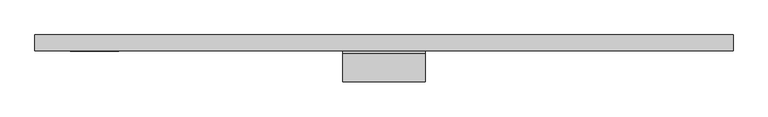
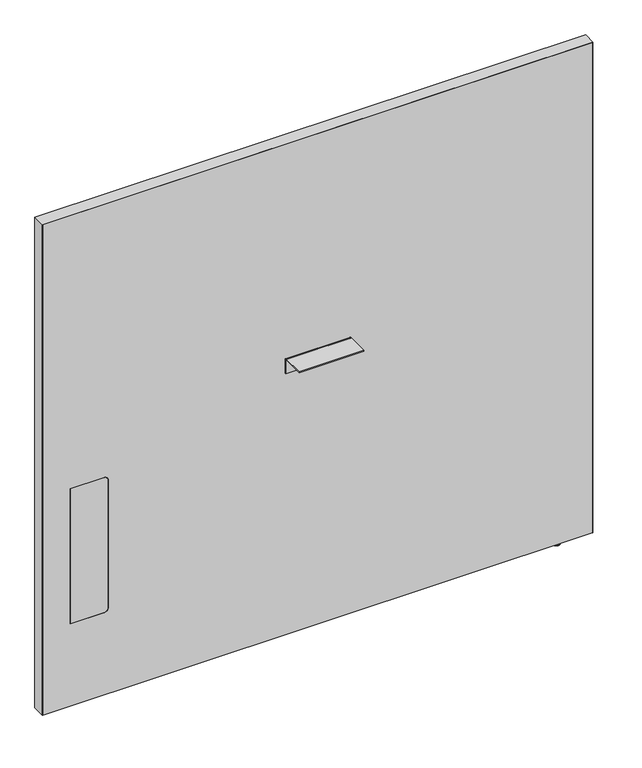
"""IFC4 building model written with IfcOpenShell, lengths in millimetres: furniture geometry, Steelcase - Answer Solution - Boundary Screen - Straight - Single Sided : 48H x 51W."""

from ifc_helpers import new_model, si_unit, point, frame, frame_2d, origin, place, context, project, spatial, polyline, circle_curve, ellipse_curve, trimmed, segment, composite_curve, outline, extrude, source, transform, mapped, element, save
from ifc_brep_helpers import plane_surface, cylinder_surface, revolved_surface, advanced_brep


def furniture_9339183b(model_context):
    return source(origin(), model_context, "Body", "SolidModel", [
        extrude(outline(composite_curve([segment(polyline([(-86.8398151, 696.4680019), (-86.8398151, 698.5), (-34.9450855, 698.5)]), True, "CONTINUOUS"), segment(trimmed(circle_curve(frame_2d((-34.9450855, 693.2447477)), 5.2552523), [point((-34.9450855, 698.5))], [point((-29.6898332, 693.2447477))], False, "CARTESIAN"), True, "CONTINUOUS"), segment(polyline([(-29.6898332, 693.2447477), (-29.6898332, 660.4), (-31.7218162, 660.4), (-31.7218162, 693.0058743)]), True, "CONTINUOUS"), segment(trimmed(circle_curve(frame_2d((-35.1839438, 693.0058743)), 3.4621276), [point((-31.7218162, 693.0058743))], [point((-35.1839438, 696.4680019))], True, "CARTESIAN"), True, "CONTINUOUS"), segment(polyline([(-35.1839438, 696.4680019), (-86.8398151, 696.4680019)]), True, "CONTINUOUS")], self_intersect=False)), frame((-74.9808593, 0.0, 0.0), z_axis=(1.0, 0.0, 0.0), x_axis=(0.0, 1.0, 0.0)), (0.0, 0.0, 1.0), 152.4000969),
        advanced_brep(
        [(571.7286488, -23.7588726, 9.9059849), (571.7286488, -5.9309607, 9.9059849), (571.7286488, -14.8449166, 9.9059849), (571.7286488, -23.7588726, 2.9673238), (571.7286488, -5.9309607, 2.9673238), (571.7286488, -22.7915354, 2.9673238), (571.7286488, -6.8982978, 2.9673238), (571.7286488, -22.7915354, 1.6569081), (571.7286488, -6.8982978, 1.6569081), (571.7286488, -21.1346274, 0.0), (571.7286488, -8.5552059, 0.0), (571.7286488, -14.8449166, 0.0)],
        [
            (0, 1, circle_curve(frame((571.7286488, -14.8449166, 9.9059849), z_axis=(0.0, 0.0, 1.0), x_axis=(0.0, 1.0, 0.0)), 8.913956)),
            (1, 2),
            (2, 0),
            (1, 0, circle_curve(frame((571.7286488, -14.8449166, 9.9059849), z_axis=(0.0, 0.0, 1.0), x_axis=(0.0, 1.0, 0.0)), 8.913956)),
            (3, 4, circle_curve(frame((571.7286488, -14.8449166, 2.9673238), z_axis=(0.0, 0.0, 1.0), x_axis=(0.0, 1.0, 0.0)), 8.913956)),
            (4, 1),
            (0, 3),
            (4, 3, circle_curve(frame((571.7286488, -14.8449166, 2.9673238), z_axis=(0.0, 0.0, 1.0), x_axis=(0.0, 1.0, 0.0)), 8.913956)),
            (5, 6, circle_curve(frame((571.7286488, -14.8449166, 2.9673238), z_axis=(0.0, 0.0, 1.0), x_axis=(0.0, 1.0, 0.0)), 7.9466188)),
            (6, 4),
            (3, 5),
            (6, 5, circle_curve(frame((571.7286488, -14.8449166, 2.9673238), z_axis=(0.0, 0.0, 1.0), x_axis=(0.0, 1.0, 0.0)), 7.9466188)),
            (7, 8, circle_curve(frame((571.7286488, -14.8449166, 1.6569081), z_axis=(0.0, 0.0, 1.0), x_axis=(0.0, 1.0, 0.0)), 7.9466188)),
            (8, 6),
            (5, 7),
            (8, 7, circle_curve(frame((571.7286488, -14.8449166, 1.6569081), z_axis=(0.0, 0.0, 1.0), x_axis=(0.0, 1.0, 0.0)), 7.9466188)),
            (9, 10, circle_curve(frame((571.7286488, -14.8449166, 0.0), z_axis=(0.0, 0.0, 1.0), x_axis=(0.0, 1.0, 0.0)), 6.2897107)),
            (10, 8, circle_curve(frame((571.7286488, -8.5552059, 1.6569081), z_axis=(1.0, 0.0, 0.0), x_axis=(0.0, 1.0, 0.0)), 1.6569081)),
            (7, 9, circle_curve(frame((571.7286488, -21.1346274, 1.6569081), z_axis=(1.0, 0.0, 0.0), x_axis=(0.0, -1.0, 0.0)), 1.6569081)),
            (10, 9, circle_curve(frame((571.7286488, -14.8449166, 0.0), z_axis=(0.0, 0.0, 1.0), x_axis=(0.0, 1.0, 0.0)), 6.2897107)),
            (11, 10),
            (9, 11),
        ],
        [
            plane_surface(frame((571.7286488, -14.8449166, 9.9059849), z_axis=(0.0, 0.0, 1.0), x_axis=(0.0, 1.0, 0.0))),
            cylinder_surface(frame((571.7286488, -14.8449166, 9.9059849), z_axis=(0.0, 0.0, -1.0), x_axis=(0.0, 1.0, 0.0)), 8.913956),
            plane_surface(frame((571.7286488, -14.8449166, 2.9673238), z_axis=(0.0, 0.0, -1.0), x_axis=(0.0, 1.0, 0.0))),
            cylinder_surface(frame((571.7286488, -14.8449166, 9.9059849), z_axis=(0.0, 0.0, -1.0), x_axis=(0.0, 1.0, 0.0)), 7.9466188),
            revolved_surface(trimmed(ellipse_curve(frame((571.7286488, -8.5552059, 1.6569081), z_axis=(-1.0, 0.0, 0.0), x_axis=(0.0, 1.0, 0.0)), 1.6569081, 1.6569081), [point((571.7286488, -6.8982978, 1.6569081))], [point((571.7286488, -8.5552059, 0.0))], True, "CARTESIAN"), (571.7286488, -14.8449166, 9.9059849), (0.0, 0.0, -1.0)),
            plane_surface(frame((571.7286488, -14.8449166, 0.0), z_axis=(0.0, 0.0, -1.0), x_axis=(0.0, 1.0, 0.0))),
        ],
        [
            (0, [[1, 2, 3]]),
            (0, [[4, -3, -2]]),
            (1, [[5, 6, -1, 7]]),
            (1, [[8, -7, -4, -6]]),
            (2, [[9, 10, -5, 11]]),
            (2, [[12, -11, -8, -10]]),
            (3, [[13, 14, -9, 15]]),
            (3, [[16, -15, -12, -14]]),
            (4, [[17, 18, -13, 19]]),
            (4, [[20, -19, -16, -18]]),
            (5, [[21, -17, 22]]),
            (5, [[-22, -20, -21]]),
        ],
    ),
        advanced_brep(
        [(647.8780168, 0.0, 1229.142118), (647.8780168, 0.0, 9.9059849), (-645.4902221, 0.0, 9.9059849), (-645.4902221, 0.0, 1229.142118), (647.8780168, -29.6898332, 1229.142118), (-645.4902221, -29.6898332, 1229.142118), (-645.4902221, -29.6898332, 9.9059849), (647.8780168, -29.6898332, 9.9059849), (-501.1463873, -29.6898332, 549.6162029), (-490.9863873, -29.6898332, 539.4562029), (-490.9863873, -29.6898332, 223.9362137), (-501.1463873, -29.6898332, 213.7762137), (-580.800285, -29.6898332, 213.7762137), (-580.800285, -29.6898332, 549.6162029), (-580.800285, -29.0550397, 549.6162029), (-501.1463873, -29.0550397, 549.6162029), (-580.800285, -29.0550397, 213.7762137), (-501.1463873, -29.0550397, 213.7762137), (-490.9863873, -29.0550397, 223.9362137), (-490.9863873, -29.0550397, 539.4562029)],
        [
            (0, 1),
            (1, 2),
            (2, 3),
            (3, 0),
            (4, 5),
            (5, 6),
            (6, 7),
            (7, 4),
            (8, 9, circle_curve(frame((-501.1463873, -29.6898332, 539.4562029), z_axis=(0.0, 1.0, 0.0), x_axis=(0.0, 0.0, 1.0)), 10.16)),
            (9, 10),
            (10, 11, circle_curve(frame((-501.1463873, -29.6898332, 223.9362137), z_axis=(0.0, 1.0, 0.0), x_axis=(0.0, 0.0, 1.0)), 10.16)),
            (11, 12),
            (12, 13),
            (13, 8),
            (0, 4),
            (7, 1),
            (6, 2),
            (5, 3),
            (13, 14),
            (14, 15),
            (15, 8),
            (12, 16),
            (16, 14),
            (11, 17),
            (17, 16),
            (10, 18),
            (18, 17, circle_curve(frame((-501.1463873, -29.0550397, 223.9362137), z_axis=(0.0, 1.0, 0.0), x_axis=(0.0, 0.0, 1.0)), 10.16)),
            (9, 19),
            (19, 18),
            (15, 19, circle_curve(frame((-501.1463873, -29.0550397, 539.4562029), z_axis=(0.0, 1.0, 0.0), x_axis=(0.0, 0.0, 1.0)), 10.16)),
        ],
        [
            plane_surface(frame((647.8780168, 0.0, 1229.142118), z_axis=(0.0, 1.0, 0.0), x_axis=(0.0, 0.0, -1.0))),
            plane_surface(frame((647.8780168, -29.6898332, 1229.142118), z_axis=(0.0, -1.0, 0.0), x_axis=(0.0, 0.0, 1.0))),
            plane_surface(frame((647.8780168, 0.0, 1229.142118), z_axis=(1.0, 0.0, 0.0), x_axis=(0.0, -1.0, 0.0))),
            plane_surface(frame((647.8780168, 0.0, 9.9059849), z_axis=(0.0, 0.0, -1.0), x_axis=(0.0, -1.0, 0.0))),
            plane_surface(frame((-645.4902221, 0.0, 9.9059849), z_axis=(-1.0, 0.0, 0.0), x_axis=(0.0, -1.0, 0.0))),
            plane_surface(frame((-645.4902221, 0.0, 1229.142118), z_axis=(0.0, 0.0, 1.0), x_axis=(0.0, -1.0, 0.0))),
            plane_surface(frame((-501.1463873, 0.0, 549.6162029), z_axis=(0.0, 0.0, -1.0), x_axis=(0.0, -1.0, 0.0))),
            plane_surface(frame((-580.800285, 0.0, 549.6162029), z_axis=(1.0, 0.0, 0.0), x_axis=(0.0, -1.0, 0.0))),
            plane_surface(frame((-580.800285, 0.0, 213.7762137), z_axis=(0.0, 0.0, 1.0), x_axis=(0.0, -1.0, 0.0))),
            revolved_surface(polyline([(-501.1463873, -29.6898332, 234.0962137), (-501.1463873, -29.0550397, 234.0962137)]), (-501.1463873, -29.6898332, 223.9362137), (0.0, -1.0, 0.0)),
            plane_surface(frame((-490.9863873, 0.0, 223.9362137), z_axis=(-1.0, 0.0, 0.0), x_axis=(0.0, -1.0, 0.0))),
            revolved_surface(polyline([(-501.1463873, -29.6898332, 549.6162029), (-501.1463873, -29.0550397, 549.6162029)]), (-501.1463873, -29.6898332, 539.4562029), (0.0, -1.0, 0.0)),
            plane_surface(frame((-490.9863873, -29.0550397, 629.172953), z_axis=(0.0, -1.0, 0.0), x_axis=(0.0, 0.0, 1.0))),
        ],
        [
            (0, [[1, 2, 3, 4]]),
            (1, [[5, 6, 7, 8], [9, 10, 11, 12, 13, 14]]),
            (2, [[-1, 15, -8, 16]]),
            (3, [[-2, -16, -7, 17]]),
            (4, [[-3, -17, -6, 18]]),
            (5, [[-4, -18, -5, -15]]),
            (6, [[-14, 19, 20, 21]]),
            (7, [[-13, 22, 23, -19]]),
            (8, [[-12, 24, 25, -22]]),
            (9, [[-11, 26, 27, -24]]),
            (10, [[-10, 28, 29, -26]]),
            (11, [[-9, -21, 30, -28]]),
            (12, [[-20, -23, -25, -27, -29, -30]]),
        ],
    ),
        extrude(outline(composite_curve([segment(polyline([(549.6162029, -501.1463873), (549.6162029, -580.800285), (213.7762137, -580.800285), (213.7762137, -501.1463873)]), True, "CONTINUOUS"), segment(trimmed(circle_curve(frame_2d((223.9362137, -501.1463873)), 10.16), [point((213.7762137, -501.1463873))], [point((223.9362137, -490.9863873))], False, "CARTESIAN"), True, "CONTINUOUS"), segment(polyline([(223.9362137, -490.9863873), (539.4562029, -490.9863873)]), True, "CONTINUOUS"), segment(trimmed(circle_curve(frame_2d((539.4562029, -501.1463873)), 10.16), [point((539.4562029, -490.9863873))], [point((549.6162029, -501.1463873))], False, "CARTESIAN"), True, "CONTINUOUS")], self_intersect=False)), frame((0.0, -29.6898332, 0.0), z_axis=(0.0, 1.0, 0.0), x_axis=(0.0, 0.0, 1.0)), (0.0, 0.0, 1.0), 0.6347935),
        extrude(outline(polyline([(1230.122, 648.9191891), (1230.122, -646.4808109), (9.9059849, -646.4808109), (9.9059849, -645.4902221), (1229.142118, -645.4902221), (1229.142118, 647.8780168), (9.9059849, 647.8780168), (9.9059849, 648.9191891), (1230.122, 648.9191891)])), frame((0.0, -29.6898332, 0.0), z_axis=(0.0, 1.0, 0.0), x_axis=(0.0, 0.0, 1.0)), (0.0, 0.0, 1.0), 29.6898332),
    ])


if __name__ == "__main__":
    model = new_model("IFC4")
    model_context = context("Model", 3, world=origin())
    ifc_project = project(units=[si_unit("LENGTHUNIT", "METRE", prefix="MILLI")], contexts=[model_context])
    site = spatial("IfcSite", under=ifc_project)
    building = spatial("IfcBuilding", under=site)
    placement = place(None, origin())
    furniture_shape = furniture_9339183b(model_context)
    element("IfcFurniture", 1, ObjectType="Steelcase - Answer Solution - Boundary Screen - Straight - Single Sided : 48H x 51W", at=placement, inside=building, context=model_context, shape_type="MappedRepresentation", body=[
        mapped(furniture_shape, transform((0.0, 0.0, 0.0), x_axis=(1.0, 0.0, 0.0), y_axis=(0.0, 1.0, 0.0), z_axis=(0.0, 0.0, 1.0))),
    ])
    save(model, "model.ifc")
